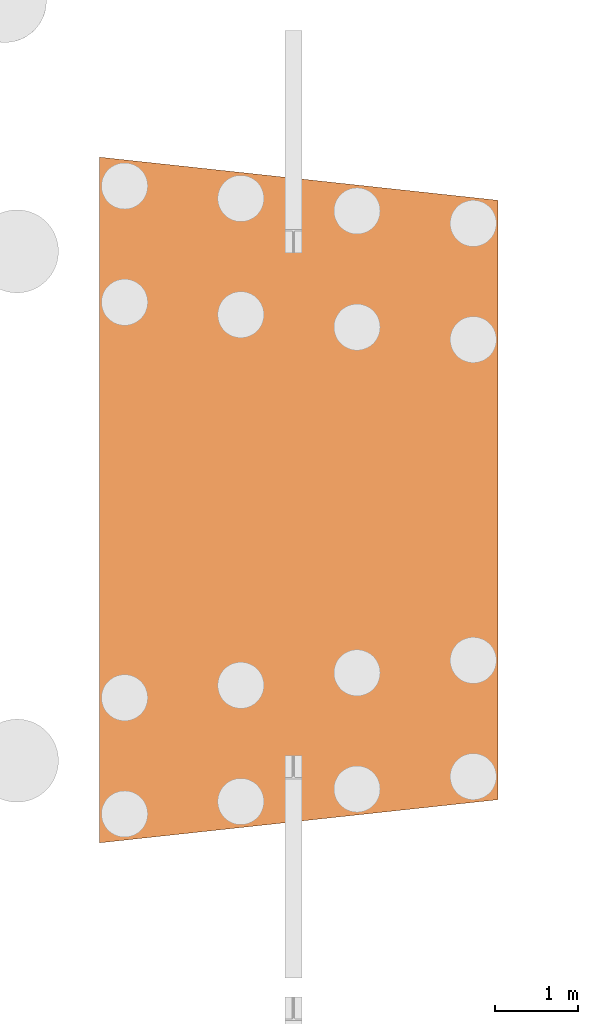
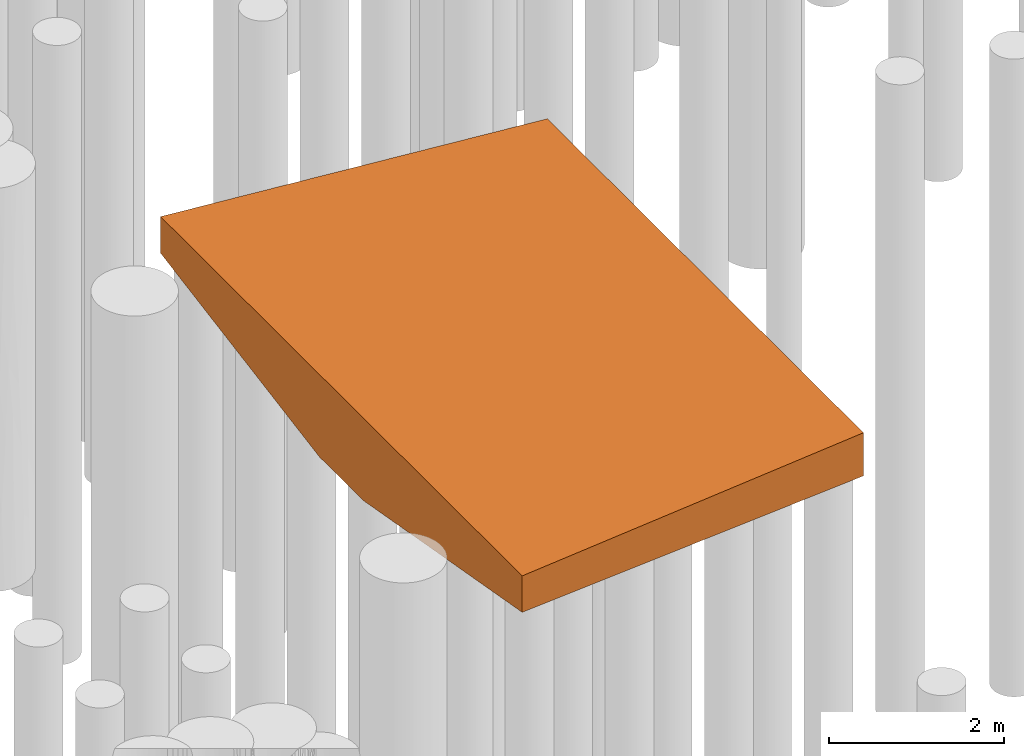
# One storey, part 104 of 104: 1 proxy.
"""IFC2X3 building model written with IfcOpenShell, lengths in millimetres."""

import ifcopenshell
import ifcopenshell.guid

model = None  # the IFC model being written
_history = None  # IfcOwnerHistory: only IFC2X3 demands one
_inside = {}  # id of a spatial element -> (the spatial element, [elements in it])
_under = {}  # id of a project, library or spatial element -> (it, [spatial elements below it])
_declared = {}  # id of a project -> (the project, [libraries it declares])
_typed = {}  # id of a type object -> (the type object, [elements of that type])
_made_of = {}  # id of a material, layer set ... -> (it, [elements and type objects made of it])


def new_model(schema):
    """Start an empty IFC model of exactly this schema.

    Asked for "IFC4X3", IfcOpenShell would pick the latest addendum, in which some entities
    have other attributes; the version numbers below select the first issue.
    IFC2X3 requires an IfcOwnerHistory on every rooted entity: one is made here for all.
    """
    global model, _history
    if schema == "IFC4X3":
        model = ifcopenshell.file(schema_version=(4, 3, 0, 0))
    else:
        model = ifcopenshell.file(schema=schema)
    _inside.clear()
    _under.clear()
    _declared.clear()
    _typed.clear()
    _made_of.clear()
    _history = None
    if model.schema == "IFC2X3":
        org = make("IfcOrganization", Name="unknown")
        user = make(
            "IfcPersonAndOrganization",
            ThePerson=make("IfcPerson", FamilyName="unknown"),
            TheOrganization=org,
        )
        app = make(
            "IfcApplication",
            ApplicationDeveloper=org,
            Version="unknown",
            ApplicationFullName="unknown",
            ApplicationIdentifier="unknown",
        )
        _history = make(
            "IfcOwnerHistory",
            OwningUser=user,
            OwningApplication=app,
            ChangeAction="ADDED",
            CreationDate=0,
        )
    return model


def make(cls, **values):
    """One entity of the class cls with the attributes given. An attribute that is None is left unset."""
    return model.create_entity(
        cls, **{name: value for name, value in values.items() if value is not None}
    )


def entity(cls, *values):
    """Any entity or typed value of the class cls, its attributes in the order of the schema. None: left unset."""
    e = model.create_entity(cls)
    for i, value in enumerate(values):
        if value is not None:
            e[i] = value
    return e


def rooted(cls, **values):
    """An entity with a GlobalId (a new one), such as an element, a storey or a relation."""
    return make(cls, GlobalId=ifcopenshell.guid.new(), OwnerHistory=_history, **values)


def si_unit(unit_type, name, prefix=None):
    """IfcSIUnit, for example si_unit("LENGTHUNIT", "METRE", prefix="MILLI")."""
    return make("IfcSIUnit", UnitType=unit_type, Prefix=prefix, Name=name)


def converted_unit(unit_type, name, factor, base, dimensions=None, offset=None):
    """IfcConversionBasedUnit, such as the inch: factor (a typed value) times the base unit."""
    return make(
        "IfcConversionBasedUnit"
        if offset is None
        else "IfcConversionBasedUnitWithOffset",
        ConversionOffset=offset,
        Dimensions=None
        if dimensions is None
        else entity("IfcDimensionalExponents", *dimensions),
        UnitType=unit_type,
        Name=name,
        ConversionFactor=make(
            "IfcMeasureWithUnit", ValueComponent=factor, UnitComponent=base
        ),
    )


def derived_unit(unit_type, elements):
    """IfcDerivedUnit: a product of units, each with its exponent."""
    return make(
        "IfcDerivedUnit",
        Elements=[
            make("IfcDerivedUnitElement", Unit=unit, Exponent=power)
            for unit, power in elements
        ],
        UnitType=unit_type,
    )


def assignment(units):
    """IfcUnitAssignment: the units of a project."""
    return None if units is None else make("IfcUnitAssignment", Units=units)


def point(xyz):
    """IfcCartesianPoint."""
    return None if xyz is None else make("IfcCartesianPoint", Coordinates=xyz)


def direction(xyz):
    """IfcDirection."""
    return None if xyz is None else make("IfcDirection", DirectionRatios=xyz)


def frame(location, z_axis=None, x_axis=None):
    """IfcAxis2Placement3D, a coordinate frame: its origin and axes. An axis left out is left unset."""
    return make(
        "IfcAxis2Placement3D",
        Location=point(location),
        Axis=direction(z_axis),
        RefDirection=direction(x_axis),
    )


def origin():
    """The frame at (0, 0, 0) with its axes left unset."""
    return frame((0.0, 0.0, 0.0))


def place(relative_to, where):
    """IfcLocalPlacement: puts the frame where relative to a parent placement (None: the world)."""
    return make(
        "IfcLocalPlacement", PlacementRelTo=relative_to, RelativePlacement=where
    )


def context(
    kind, dimensions, precision=None, world=None, true_north=None, identifier=None
):
    """IfcGeometricRepresentationContext, for example the 3D "Model" context."""
    return make(
        "IfcGeometricRepresentationContext",
        ContextIdentifier=identifier,
        ContextType=kind,
        CoordinateSpaceDimension=dimensions,
        Precision=precision,
        WorldCoordinateSystem=world,
        TrueNorth=true_north,
    )


def subcontext(parent, identifier, kind, view, scale=None):
    """IfcGeometricRepresentationSubContext, for example "Body" below "Model"."""
    return make(
        "IfcGeometricRepresentationSubContext",
        ContextIdentifier=identifier,
        ContextType=kind,
        ParentContext=parent,
        TargetScale=scale,
        TargetView=view,
    )


def project(units=None, contexts=None):
    """IfcProject with its units and contexts."""
    return rooted(
        "IfcProject",
        Name="project",
        RepresentationContexts=contexts,
        UnitsInContext=assignment(units),
    )


def spatial(cls, under=None, at=None, **own):
    """A site, building, storey or space (cls), placed at a placement, below another one or the project."""
    s = rooted(cls, ObjectPlacement=at, **own)
    if under is not None:
        _under.setdefault(under.id(), (under, []))[1].append(s)
    return s


def faces_of(points, faces, orient=None, outer=None):
    """IfcFace entities. A face is a list of loops; a loop is a list of indices into points, from 0.

    orient and outer hold one flag for each loop. By default every Orientation is true, the
    first loop of a face is its IfcFaceOuterBound and the others are IfcFaceBound.
    """
    made = []
    for i, loops in enumerate(faces):
        bounds = []
        for j, loop in enumerate(loops):
            is_outer = j == 0 if outer is None else outer[i][j]
            bounds.append(
                make(
                    "IfcFaceOuterBound" if is_outer else "IfcFaceBound",
                    Bound=make("IfcPolyLoop", Polygon=[points[k] for k in loop]),
                    Orientation=True if orient is None else orient[i][j],
                )
            )
        made.append(make("IfcFace", Bounds=bounds))
    return made


def faceted_brep(points, faces, orient=None, outer=None, voids=None):
    """IfcFacetedBrep: a solid bounded by flat faces; with voids (closed shells), ...WithVoids."""
    shared = [point(p) for p in points]
    hull = make("IfcClosedShell", CfsFaces=faces_of(shared, faces, orient, outer))
    if voids is None:
        return make("IfcFacetedBrep", Outer=hull)
    return make(
        "IfcFacetedBrepWithVoids",
        Outer=hull,
        Voids=[
            make(cls, CfsFaces=faces_of(shared, fs, o, b)) for cls, fs, o, b in voids
        ],
    )


def shape(context_of_items, identifier, shape_type, items):
    """IfcShapeRepresentation: the items that make up one representation, for example the "Body"."""
    return make(
        "IfcShapeRepresentation",
        ContextOfItems=context_of_items,
        RepresentationIdentifier=identifier,
        RepresentationType=shape_type,
        Items=items,
    )


def source(mapping_origin, context_of_items, identifier, shape_type, items):
    """IfcRepresentationMap: a shape defined once, which mapped items show again and again."""
    return make(
        "IfcRepresentationMap",
        MappingOrigin=mapping_origin,
        MappedRepresentation=shape(context_of_items, identifier, shape_type, items),
    )


def transform(
    local_origin,
    x_axis=None,
    y_axis=None,
    z_axis=None,
    scale=None,
    scale2=None,
    scale3=None,
    uniform=True,
):
    """IfcCartesianTransformationOperator3D, or its non-uniform kind. x_axis, y_axis, z_axis: its Axis1, 2, 3."""
    if uniform:
        return make(
            "IfcCartesianTransformationOperator3D",
            Axis1=direction(x_axis),
            Axis2=direction(y_axis),
            LocalOrigin=point(local_origin),
            Scale=scale,
            Axis3=direction(z_axis),
        )
    return make(
        "IfcCartesianTransformationOperator3DnonUniform",
        Axis1=direction(x_axis),
        Axis2=direction(y_axis),
        LocalOrigin=point(local_origin),
        Scale=scale,
        Axis3=direction(z_axis),
        Scale2=scale2,
        Scale3=scale3,
    )


def mapped(mapping_source, mapping_target):
    """IfcMappedItem: shows the shape of a source again, moved by a transform."""
    return make(
        "IfcMappedItem", MappingSource=mapping_source, MappingTarget=mapping_target
    )


def material(Name=None, Category=None):
    """IfcMaterial."""
    return make("IfcMaterial", Name=Name, Category=Category)


def made_of(thing, what):
    """Note that an element or type object is made of a material, layer set ...; save() writes the relation."""
    if what is not None:
        _made_of.setdefault(what.id(), (what, []))[1].append(thing)
    return thing


def type_object(cls, material=None, **own):
    """A type object (cls), such as IfcWallType, which elements share."""
    return made_of(rooted(cls, **own), material)


def type_shapes(of_type, sources):
    """Give a type object the sources (RepresentationMaps) that its elements show as mapped items."""
    of_type.RepresentationMaps = sources


def element(
    cls,
    number,
    at=None,
    inside=None,
    cuts=None,
    type_object=None,
    material=None,
    context=None,
    identifier="Body",
    shape_type=None,
    held_by="IfcProductDefinitionShape",
    body=None,
    shapes=None,
    **own,
):
    """One element of the class cls, such as IfcWall. Its Tag is "e" and its number.

    at: its placement. inside: the storey or other place that contains it. cuts: it is an
    opening in that element (IfcRelVoidsElement). A single representation is given by context,
    identifier, shape_type and body (its items); several are given by shapes. held_by: the class
    of the entity that holds the representations. save() writes the other relations.
    """
    e = rooted(cls, Tag="e%d" % number, ObjectPlacement=at, **own)
    if body is not None:
        shapes = [shape(context, identifier, shape_type, body)]
    if shapes is not None:
        e.Representation = make(held_by, Representations=shapes)
    if inside is not None:
        _inside.setdefault(inside.id(), (inside, []))[1].append(e)
    if cuts is not None:
        rooted(
            "IfcRelVoidsElement", RelatingBuildingElement=cuts, RelatedOpeningElement=e
        )
    if type_object is not None:
        _typed.setdefault(type_object.id(), (type_object, []))[1].append(e)
    return made_of(e, material)


def aggregate(whole, parts):
    """IfcRelAggregates: a whole, such as a stair, and the parts it consists of."""
    return rooted("IfcRelAggregates", RelatingObject=whole, RelatedObjects=parts)


def save(model, path):
    """Write the relations noted so far, then the file.

    IfcRelAggregates (storeys below a building ...), IfcRelContainedInSpatialStructure (elements
    in a storey), IfcRelDefinesByType, IfcRelAssociatesMaterial and IfcRelDeclares: one each for
    every whole, place, type object, material and project.
    """
    for whole, parts in _under.values():
        aggregate(whole, parts)
    for where, things in _inside.values():
        rooted(
            "IfcRelContainedInSpatialStructure",
            RelatedElements=things,
            RelatingStructure=where,
        )
    for kind, things in _typed.values():
        rooted("IfcRelDefinesByType", RelatedObjects=things, RelatingType=kind)
    for what, things in _made_of.values():
        rooted("IfcRelAssociatesMaterial", RelatedObjects=things, RelatingMaterial=what)
    for by, libraries in _declared.values():
        rooted("IfcRelDeclares", RelatingContext=by, RelatedDefinitions=libraries)
    model.write(path)


model = new_model("IFC2X3")

# Units and contexts
model_context = context("Model", 3, precision=0.01, world=origin(), true_north=direction((6.12303176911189e-17, 1.0)))
body_context = subcontext(model_context, "Body", "Model", "MODEL_VIEW")
ifc_project = project(units=[si_unit("LENGTHUNIT", "METRE", prefix="MILLI"), si_unit("AREAUNIT", "SQUARE_METRE", prefix="MILLI"), si_unit("VOLUMEUNIT", "CUBIC_METRE"), converted_unit("PLANEANGLEUNIT", "DEGREE", entity("IfcRatioMeasure", 0.0174532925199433), si_unit("PLANEANGLEUNIT", "RADIAN"), dimensions=[0, 0, 0, 0, 0, 0, 0]), si_unit("MASSUNIT", "GRAM", prefix="KILO"), derived_unit("MASSDENSITYUNIT", [(si_unit("MASSUNIT", "GRAM", prefix="KILO"), 1), (si_unit("LENGTHUNIT", "METRE"), -3)]), derived_unit("MOMENTOFINERTIAUNIT", [(si_unit("LENGTHUNIT", "METRE"), 4)]), si_unit("TIMEUNIT", "SECOND"), si_unit("FREQUENCYUNIT", "HERTZ"), si_unit("THERMODYNAMICTEMPERATUREUNIT", "DEGREE_CELSIUS"), derived_unit("THERMALTRANSMITTANCEUNIT", [(si_unit("MASSUNIT", "GRAM", prefix="KILO"), 1), (si_unit("THERMODYNAMICTEMPERATUREUNIT", "KELVIN"), -1), (si_unit("TIMEUNIT", "SECOND"), -3)]), derived_unit("VOLUMETRICFLOWRATEUNIT", [(si_unit("LENGTHUNIT", "METRE"), 3), (si_unit("TIMEUNIT", "SECOND"), -1)]), si_unit("ELECTRICCURRENTUNIT", "AMPERE"), si_unit("ELECTRICVOLTAGEUNIT", "VOLT"), si_unit("POWERUNIT", "WATT"), si_unit("FORCEUNIT", "NEWTON", prefix="KILO"), si_unit("ILLUMINANCEUNIT", "LUX"), si_unit("LUMINOUSFLUXUNIT", "LUMEN"), si_unit("LUMINOUSINTENSITYUNIT", "CANDELA"), derived_unit("USERDEFINED", [(si_unit("MASSUNIT", "GRAM", prefix="KILO"), -1), (si_unit("LENGTHUNIT", "METRE"), -2), (si_unit("TIMEUNIT", "SECOND"), 3), (si_unit("LUMINOUSFLUXUNIT", "LUMEN"), 1)]), derived_unit("LINEARVELOCITYUNIT", [(si_unit("LENGTHUNIT", "METRE"), 1), (si_unit("TIMEUNIT", "SECOND"), -1)]), si_unit("PRESSUREUNIT", "PASCAL"), derived_unit("USERDEFINED", [(si_unit("LENGTHUNIT", "METRE"), -2), (si_unit("MASSUNIT", "GRAM", prefix="KILO"), 1), (si_unit("TIMEUNIT", "SECOND"), -2)]), derived_unit("LINEARFORCEUNIT", [(si_unit("MASSUNIT", "GRAM", prefix="KILO"), 1), (si_unit("LENGTHUNIT", "METRE"), 1), (si_unit("TIMEUNIT", "SECOND"), -2), (si_unit("LENGTHUNIT", "METRE"), -1)]), derived_unit("PLANARFORCEUNIT", [(si_unit("MASSUNIT", "GRAM", prefix="KILO"), 1), (si_unit("LENGTHUNIT", "METRE"), 1), (si_unit("TIMEUNIT", "SECOND"), -2), (si_unit("LENGTHUNIT", "METRE"), -2)])], contexts=[model_context])

# Site, building, storey
site_placement = place(None, origin())
site = spatial("IfcSite", under=ifc_project, at=site_placement, Name="Theater aan de Parade", CompositionType="ELEMENT")
building_placement = place(site_placement, origin())
building = spatial("IfcBuilding", under=site, at=building_placement, Name="Theater aan de Parade", CompositionType="ELEMENT")
storey_placement = place(building_placement, frame((0.0, 0.0, -5520.0)))
storey = spatial("IfcBuildingStorey", under=building, at=storey_placement, Name="-2 kelder", CompositionType="ELEMENT", Elevation=-5520.0)

# Proxy
ifc_material = material(Name="00_PBT_MAT_beton t.p.g.")
building_element_proxy_type = type_object("IfcBuildingElementProxyType", Name="Poer P20:Poer P20", PredefinedType="NOTDEFINED", material=ifc_material)
shared_shape = source(origin(), body_context, "Body", "Brep", [
    faceted_brep([(4800.0, 520.0, 550.0), (4800.0, 3630.0, 0.0), (4800.0, 4630.0, 0.0), (4800.0, 7740.0, 550.0), (4800.0, 7740.0, 1150.0), (4800.0, 520.0, 1150.0), (0.0, 8260.0, 641.961414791), (0.0, 4630.0, 0.0), (0.0, 3630.0, 0.0), (0.0, 0.0, 641.961414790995), (0.0, 0.0, 1150.0), (0.0, 8260.0, 1150.0)], [[[0, 1, 2, 3, 4, 5]], [[6, 7, 8, 9, 10, 11]], [[9, 0, 5, 10]], [[1, 0, 9, 8]], [[2, 1, 8, 7]], [[3, 2, 7, 6]], [[3, 6, 11, 4]], [[5, 4, 11, 10]]]),
])
type_shapes(building_element_proxy_type, [shared_shape])
proxy_placement = place(storey_placement, frame((43275.0, 28340.0, 630.0)))
element("IfcBuildingElementProxy", 1, at=proxy_placement, inside=storey, type_object=building_element_proxy_type, material=ifc_material, Name="Poer P20:Poer P20", ObjectType="Poer P20:Poer P20", context=body_context, shape_type="MappedRepresentation", body=[
    mapped(shared_shape, transform((0.0, 0.0, 0.0), scale=1.0)),
])

save(model, "model.ifc")
